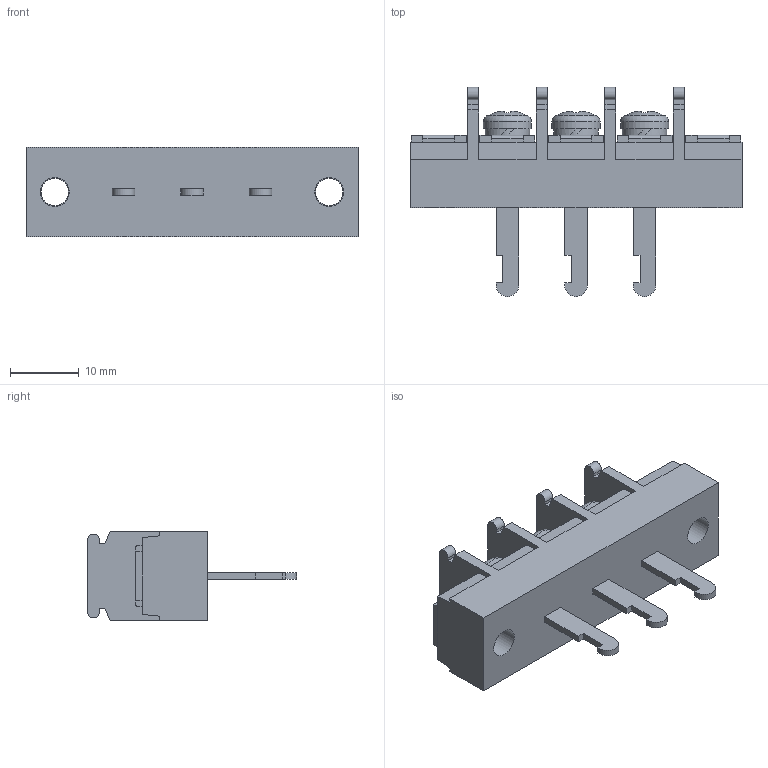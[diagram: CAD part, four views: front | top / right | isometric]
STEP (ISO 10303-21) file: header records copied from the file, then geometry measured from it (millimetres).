
FILE_DESCRIPTION(/* description */ ('Alibre Inc.'),/* implementation_level */ '2;1');
FILE_NAME(/* name */ 'export0',/* time_stamp */ '2015-10-17T19:10:24+09:00',/* author */ (''),/* organization */ (''),/* preprocessor_version */ 'ST-DEVELOPER v14',/* originating_system */ 'Alibre',/* authorisation */ '');
FILE_SCHEMA (('CONFIG_CONTROL_DESIGN'));
Length unit declared in the file: centimetre
Products named in the file (1): ID_1
Bounding box: 48.4 x 30.5 x 13 mm (x, y, z)
Volume: 6887.3 mm3; surface area: 4394.3 mm2
Topology: 1 solids, 17 shells, 641 faces, 1715 edges, 1141 vertices
Faces by surface type: plane 482, bspline 104, cylinder 34, cone 12, torus 6, sphere 3
Full cylindrical faces by diameter (mm): 4 x5, 4.2 x2, 6.5 x3, 7 x3
Entity records: 19304 total; most frequent: CARTESIAN_POINT 4472, ORIENTED_EDGE 3376, DIRECTION 2185, EDGE_CURVE 1688, VECTOR 1298, LINE 1298, VERTEX_POINT 1130, EDGE_LOOP 708
